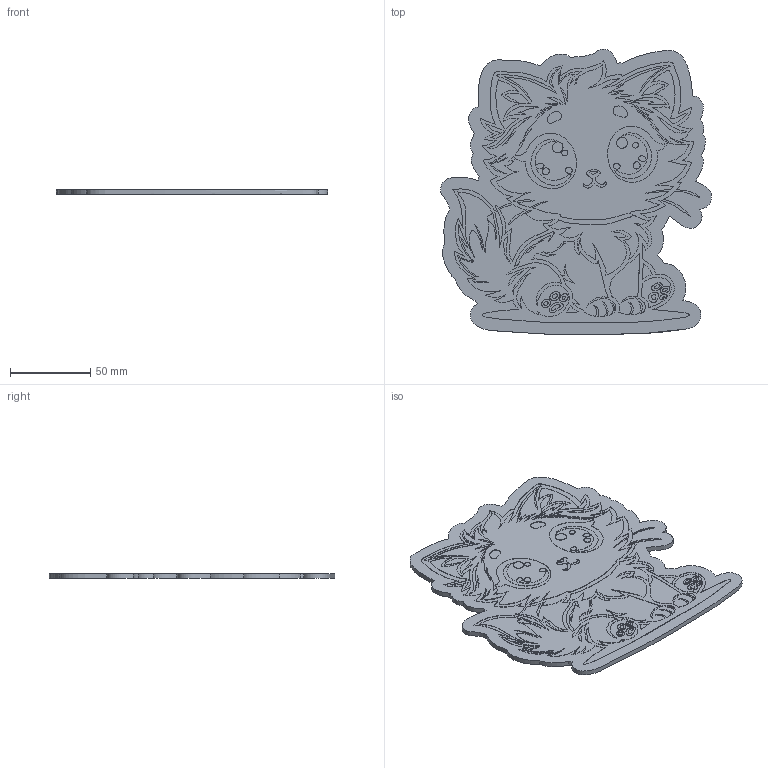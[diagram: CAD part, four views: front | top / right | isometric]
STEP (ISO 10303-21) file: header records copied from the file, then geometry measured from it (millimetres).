
FILE_DESCRIPTION(('STEP AP214'),'1');
FILE_NAME('4a.stp','2026-07-04T13:00:24',(' '),(' '),'Spatial InterOp 3D',' ',' ');
FILE_SCHEMA(('AUTOMOTIVE_DESIGN { 1 0 10303 214 1 1 1 1 }'));
Length unit declared in the file: metre
Products named in the file (53): 1783167547; 1783188325; 1783188421; 1783188423; 1783188424; 1783188425; 1783188426; 1783188427; 1783188428; 1783188429; 1783188430; 1783188431; 1783188432; 1783188433; 1783188434; 1783188435; 1783188436; 1783188439; 1783188440; 1783188441; 1783188442; 1783188443; 1783188445; 1783188446; 1783188447; 1783188448; 1783188449; 1783188451; 1783188452; 1783188453; 1783188454; 1783188455; 1783188457; 1783188459; 1783188461; 1783188463; 1783188465; 1783188467; 1783188469; 1783188471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
Bounding box: 168.76 x 177.79 x 3 mm (x, y, z)
Volume: 71803 mm3; surface area: 73333.4 mm2
Topology: 52 solids, 52 shells, 486 faces, 1497 edges, 1116 vertices
Faces by surface type: extrusion 381, plane 105
Entity records: 30577 total; most frequent: CARTESIAN_POINT 14095, ORIENTED_EDGE 2266, B_SPLINE_CURVE_WITH_KNOTS 1441, EDGE_CURVE 1133, DIRECTION 1068, VERTEX_POINT 762, VECTOR 752, STYLED_ITEM 666
